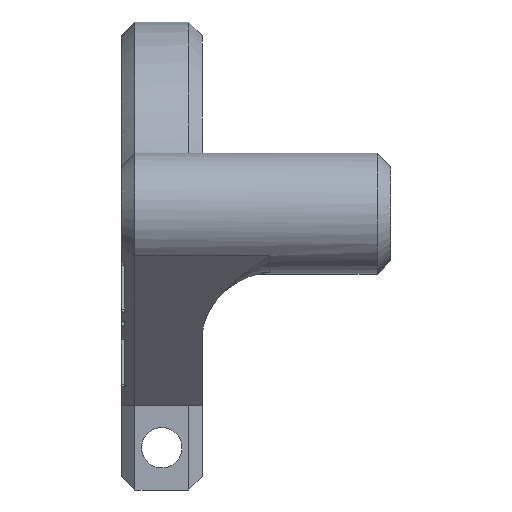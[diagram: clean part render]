
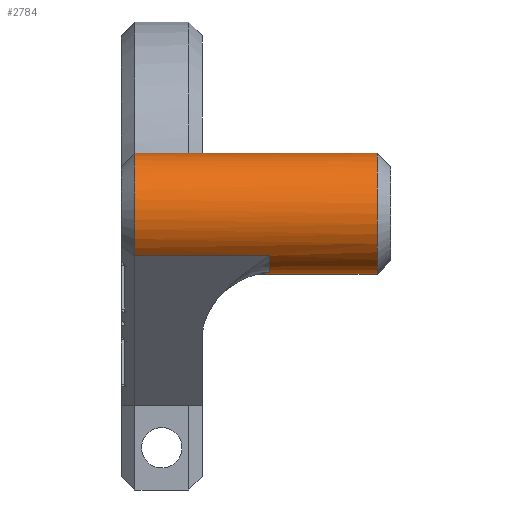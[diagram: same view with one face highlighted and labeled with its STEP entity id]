
A CAD part, left-side view. The second image highlights one B-rep face of the part: STEP entity #2784.
In plain terms, the highlighted cylindrical face has radius 9 mm (diameter 18 mm), a full revolution.
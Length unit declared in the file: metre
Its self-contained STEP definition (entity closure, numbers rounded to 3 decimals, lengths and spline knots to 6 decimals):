
#155=CIRCLE('',#3019,0.009);
#156=CIRCLE('',#3020,0.009);
#157=CIRCLE('',#3021,0.009);
#158=CIRCLE('',#3022,0.009);
#159=CIRCLE('',#3023,0.009);
#160=CIRCLE('',#3024,0.009);
#220=CYLINDRICAL_SURFACE('',#3018,0.009);
#522=ORIENTED_EDGE('',*,*,#1326,.F.);
#523=ORIENTED_EDGE('',*,*,#1327,.F.);
#524=ORIENTED_EDGE('',*,*,#1328,.F.);
#525=ORIENTED_EDGE('',*,*,#1329,.F.);
#526=ORIENTED_EDGE('',*,*,#1330,.F.);
#527=ORIENTED_EDGE('',*,*,#1331,.F.);
#528=ORIENTED_EDGE('',*,*,#1332,.F.);
#529=ORIENTED_EDGE('',*,*,#1333,.F.);
#530=ORIENTED_EDGE('',*,*,#1334,.F.);
#531=ORIENTED_EDGE('',*,*,#1335,.F.);
#532=ORIENTED_EDGE('',*,*,#1336,.T.);
#533=ORIENTED_EDGE('',*,*,#1337,.F.);
#1326=EDGE_CURVE('',#1719,#1720,#1949,.T.);
#1327=EDGE_CURVE('',#1721,#1719,#155,.F.);
#1328=EDGE_CURVE('',#1722,#1721,#1950,.T.);
#1329=EDGE_CURVE('',#1723,#1722,#156,.F.);
#1330=EDGE_CURVE('',#1724,#1723,#1951,.F.);
#1331=EDGE_CURVE('',#1725,#1724,#157,.T.);
#1332=EDGE_CURVE('',#1726,#1725,#1952,.T.);
#1333=EDGE_CURVE('',#1720,#1726,#158,.F.);
#1334=EDGE_CURVE('',#1727,#1728,#1953,.T.);
#1335=EDGE_CURVE('',#1729,#1727,#159,.F.);
#1336=EDGE_CURVE('',#1729,#1730,#1954,.T.);
#1337=EDGE_CURVE('',#1728,#1730,#160,.T.);
#1719=VERTEX_POINT('',#4474);
#1720=VERTEX_POINT('',#4475);
#1721=VERTEX_POINT('',#4477);
#1722=VERTEX_POINT('',#4479);
#1723=VERTEX_POINT('',#4481);
#1724=VERTEX_POINT('',#4483);
#1725=VERTEX_POINT('',#4485);
#1726=VERTEX_POINT('',#4487);
#1727=VERTEX_POINT('',#4490);
#1728=VERTEX_POINT('',#4491);
#1729=VERTEX_POINT('',#4493);
#1730=VERTEX_POINT('',#4495);
#1949=LINE('',#4473,#2200);
#1950=LINE('',#4478,#2201);
#1951=LINE('',#4482,#2202);
#1952=LINE('',#4486,#2203);
#1953=LINE('',#4489,#2204);
#1954=LINE('',#4494,#2205);
#2200=VECTOR('',#3523,1.);
#2201=VECTOR('',#3526,1.);
#2202=VECTOR('',#3529,1.);
#2203=VECTOR('',#3532,1.);
#2204=VECTOR('',#3535,1.);
#2205=VECTOR('',#3538,1.);
#2382=EDGE_LOOP('',(#522,#523,#524,#525,#526,#527,#528,#529));
#2383=EDGE_LOOP('',(#530,#531,#532,#533));
#2548=FACE_BOUND('',#2382,.T.);
#2549=FACE_BOUND('',#2383,.T.);
#2784=ADVANCED_FACE('',(#2548,#2549),#220,.T.);
#3018=AXIS2_PLACEMENT_3D('',#4472,#3521,#3522);
#3019=AXIS2_PLACEMENT_3D('',#4476,#3524,#3525);
#3020=AXIS2_PLACEMENT_3D('',#4480,#3527,#3528);
#3021=AXIS2_PLACEMENT_3D('',#4484,#3530,#3531);
#3022=AXIS2_PLACEMENT_3D('',#4488,#3533,#3534);
#3023=AXIS2_PLACEMENT_3D('',#4492,#3536,#3537);
#3024=AXIS2_PLACEMENT_3D('',#4496,#3539,#3540);
#3521=DIRECTION('',(0.,1.,0.));
#3522=DIRECTION('',(0.,0.,-1.));
#3523=DIRECTION('',(0.,-1.,0.));
#3524=DIRECTION('',(0.,-1.,0.));
#3525=DIRECTION('',(0.,0.,-1.));
#3526=DIRECTION('',(0.,1.,0.));
#3527=DIRECTION('',(0.,-1.,0.));
#3528=DIRECTION('',(0.,0.,-1.));
#3529=DIRECTION('',(0.,1.,0.));
#3530=DIRECTION('',(0.,1.,0.));
#3531=DIRECTION('',(0.,0.,1.));
#3532=DIRECTION('',(0.,1.,0.));
#3533=DIRECTION('',(0.,-1.,0.));
#3534=DIRECTION('',(0.,0.,-1.));
#3535=DIRECTION('',(0.,-1.,0.));
#3536=DIRECTION('',(0.,1.,0.));
#3537=DIRECTION('',(0.,0.,1.));
#3538=DIRECTION('',(0.,-1.,0.));
#3539=DIRECTION('',(0.,-1.,0.));
#3540=DIRECTION('',(0.,0.,-1.));
#4472=CARTESIAN_POINT('',(-0.0435,-0.027,0.));
#4473=CARTESIAN_POINT('',(-0.03675,0.013002,0.005953));
#4474=CARTESIAN_POINT('',(-0.03675,0.011,0.005953));
#4475=CARTESIAN_POINT('',(-0.03675,-0.009,0.005953));
#4476=CARTESIAN_POINT('',(-0.0435,0.011,0.));
#4477=CARTESIAN_POINT('',(-0.049976,0.011,-0.00625));
#4478=CARTESIAN_POINT('',(-0.049976,0.000998,-0.00625));
#4479=CARTESIAN_POINT('',(-0.049976,-0.009,-0.00625));
#4480=CARTESIAN_POINT('',(-0.0435,-0.009,0.));
#4481=CARTESIAN_POINT('',(-0.045441,-0.009,-0.008788));
#4482=CARTESIAN_POINT('',(-0.045441,0.001,-0.008788));
#4483=CARTESIAN_POINT('',(-0.045441,0.001,-0.008788));
#4484=CARTESIAN_POINT('',(-0.0435,0.001,0.));
#4485=CARTESIAN_POINT('',(-0.037844,0.001,-0.007));
#4486=CARTESIAN_POINT('',(-0.037844,-0.009,-0.007));
#4487=CARTESIAN_POINT('',(-0.037844,-0.009,-0.007));
#4488=CARTESIAN_POINT('',(-0.0435,-0.009,0.));
#4489=CARTESIAN_POINT('',(-0.03675,-0.022,0.005953));
#4490=CARTESIAN_POINT('',(-0.03675,-0.012,0.005953));
#4491=CARTESIAN_POINT('',(-0.03675,-0.025,0.005953));
#4492=CARTESIAN_POINT('',(-0.0435,-0.012,0.));
#4493=CARTESIAN_POINT('',(-0.03675,-0.012,-0.005953));
#4494=CARTESIAN_POINT('',(-0.03675,-0.022,-0.005953));
#4495=CARTESIAN_POINT('',(-0.03675,-0.025,-0.005953));
#4496=CARTESIAN_POINT('',(-0.0435,-0.025,0.));
